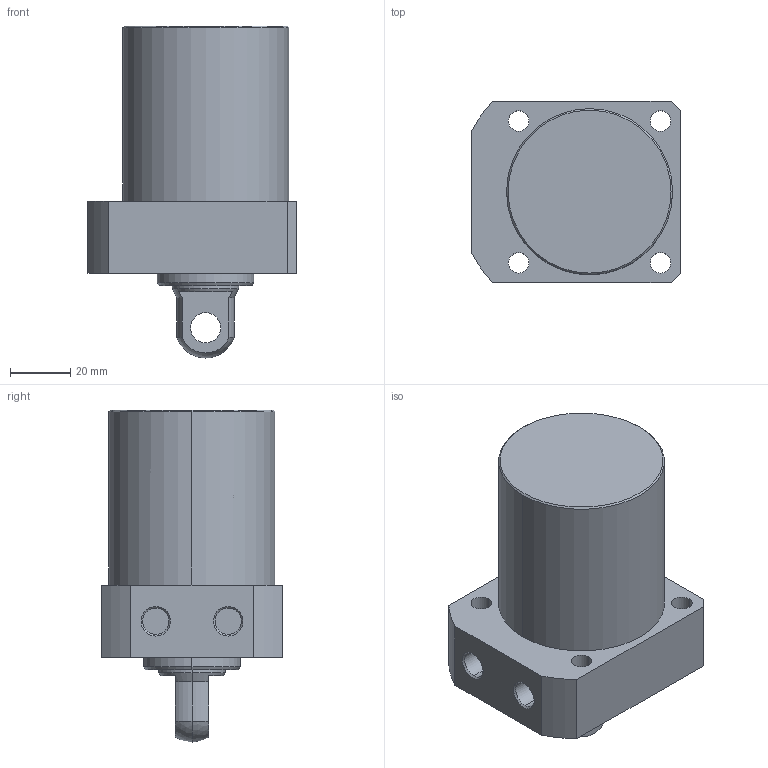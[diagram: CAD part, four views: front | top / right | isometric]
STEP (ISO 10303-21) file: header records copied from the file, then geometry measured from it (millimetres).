
FILE_DESCRIPTION (( 'STEP AP203' ), '1' );
FILE_NAME ('CLLR-055CP-045.STEP', '2019-12-19T08:26:02', ( '' ), ( '' ), 'SwSTEP 2.0', 'SolidWorks 2015', '' );
FILE_SCHEMA (( 'CONFIG_CONTROL_DESIGN' ));
Length unit declared in the file: millimetre
Products named in the file (1): CLLR-055CP-045
Bounding box: 69 x 60 x 110 mm (x, y, z)
Volume: 237047.4 mm3; surface area: 28299.6 mm2
Topology: 1 solids, 1 shells, 59 faces, 139 edges, 89 vertices
Faces by surface type: cylinder 29, plane 18, cone 10, sphere 2
Entity records: 1820 total; most frequent: DIRECTION 329, CARTESIAN_POINT 300, ORIENTED_EDGE 278, EDGE_CURVE 139, AXIS2_PLACEMENT_3D 134, VERTEX_POINT 89, EDGE_LOOP 76, CIRCLE 74
